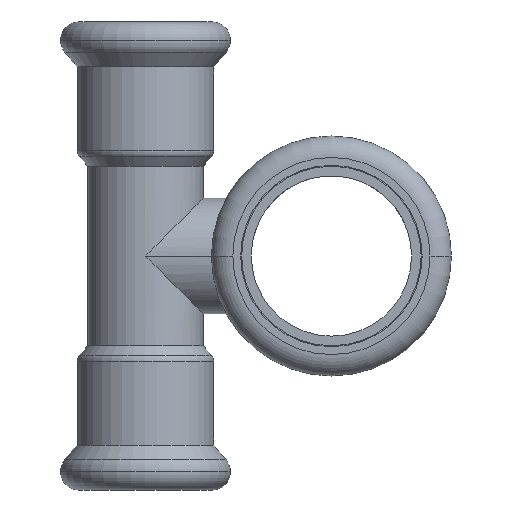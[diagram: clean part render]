
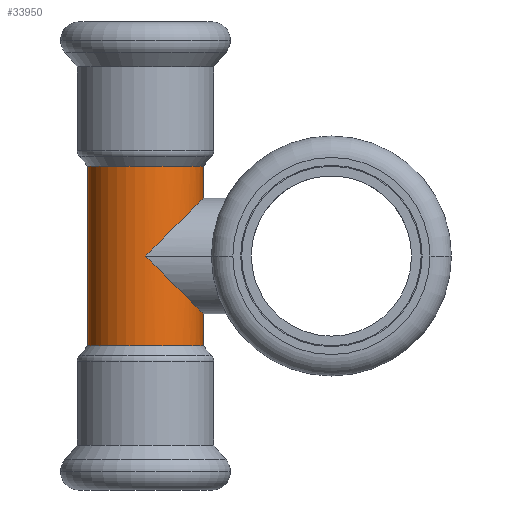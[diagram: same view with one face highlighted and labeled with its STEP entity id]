
A CAD part, front view. The second image highlights one B-rep face of the part: STEP entity #33950.
In plain terms, the highlighted cylindrical face has radius 9 mm (diameter 18 mm), a partial arc.
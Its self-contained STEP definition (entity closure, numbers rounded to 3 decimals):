
#1550=CARTESIAN_POINT('',(-193.976,42.621,0.));
#1560=VERTEX_POINT('',#1550);
#1740=CARTESIAN_POINT('',(-211.976,42.621,
0.));
#1750=VERTEX_POINT('',#1740);
#1780=CARTESIAN_POINT('',(-202.976,42.621,0.));
#1790=DIRECTION('',(0.,1.,0.));
#1800=DIRECTION('',(1.,0.,0.));
#1810=AXIS2_PLACEMENT_3D('',#1780,#1790,#1800);
#1820=CIRCLE('',#1810,9.);
#24320=CARTESIAN_POINT('',(-211.976,14.621,0.));
#24330=VERTEX_POINT('',#24320);
#24420=CARTESIAN_POINT('',(-193.976,14.621,
0.));
#24430=VERTEX_POINT('',#24420);
#24460=CARTESIAN_POINT('',(-202.976,14.621,0.));
#24470=DIRECTION('',(0.,-1.,0.));
#24480=DIRECTION('',(1.,0.,0.));
#24490=AXIS2_PLACEMENT_3D('',#24460,#24470,#24480);
#24500=CIRCLE('',#24490,9.);
#24720=CARTESIAN_POINT('',(-202.976,14.621,0.));
#24730=DIRECTION('',(0.,-1.,0.));
#24740=DIRECTION('',(1.,0.,0.));
#24750=AXIS2_PLACEMENT_3D('',#24720,#24730,#24740);
#24760=CYLINDRICAL_SURFACE('',#24750,9.);
#24770=CARTESIAN_POINT('',(-193.976,14.621,0.));
#24780=DIRECTION('',(0.,-1.,0.));
#24790=VECTOR('',#24780,1.);
#24800=LINE('',#24770,#24790);
#24810=CARTESIAN_POINT('',(-193.976,19.621,0.));
#24820=VERTEX_POINT('',#24810);
#24830=EDGE_CURVE('',#24820,#24430,#24800,.T.);
#24850=CARTESIAN_POINT('',(-202.976,28.621,
0.));
#24860=DIRECTION('',(-0.707,-0.707,0.));
#24870=DIRECTION('',(0.707,-0.707,0.));
#24880=AXIS2_PLACEMENT_3D('',#24850,#24860,#24870);
#24890=ELLIPSE('',#24880,12.728,9.);
#24940=CARTESIAN_POINT('',(-202.976,28.621,
0.));
#24950=DIRECTION('',(0.707,-0.707,0.));
#24960=DIRECTION('',(-0.707,-0.707,0.));
#24970=AXIS2_PLACEMENT_3D('',#24940,#24950,#24960);
#24980=ELLIPSE('',#24970,12.728,9.);
#24990=CARTESIAN_POINT('',(-193.976,37.621,0.));
#25000=VERTEX_POINT('',#24990);
#25030=EDGE_CURVE('',#1560,#25000,#24800,.T.);
#25060=CARTESIAN_POINT('',(-211.976,14.621,
0.));
#25070=DIRECTION('',(0.,-1.,0.));
#25080=VECTOR('',#25070,1.);
#25090=LINE('',#25060,#25080);
#25100=EDGE_CURVE('',#1750,#24330,#25090,.T.);
#25230=CARTESIAN_POINT('',(-202.976,28.621,9.));
#25240=VERTEX_POINT('',#25230);
#25250=EDGE_CURVE('',#24820,#25240,#24890,.T.);
#28100=EDGE_CURVE('',#24430,#24330,#24500,.T.);
#33840=ORIENTED_EDGE('',*,*,#25250,.T.);
#33850=ORIENTED_EDGE('',*,*,#24830,.F.);
#33860=ORIENTED_EDGE('',*,*,#28100,.F.);
#33870=ORIENTED_EDGE('',*,*,#25100,.T.);
#33880=EDGE_CURVE('',#1750,#1560,#1820,.T.);
#33890=ORIENTED_EDGE('',*,*,#33880,.F.);
#33900=ORIENTED_EDGE('',*,*,#25030,.F.);
#33910=EDGE_CURVE('',#25000,#25240,#24980,.T.);
#33920=ORIENTED_EDGE('',*,*,#33910,.F.);
#33930=EDGE_LOOP('',(#33920,#33900,#33890,#33870,#33860,#33850,#33840));
#33940=FACE_OUTER_BOUND('',#33930,.T.);
#33950=ADVANCED_FACE('',(#33940),#24760,.T.);
